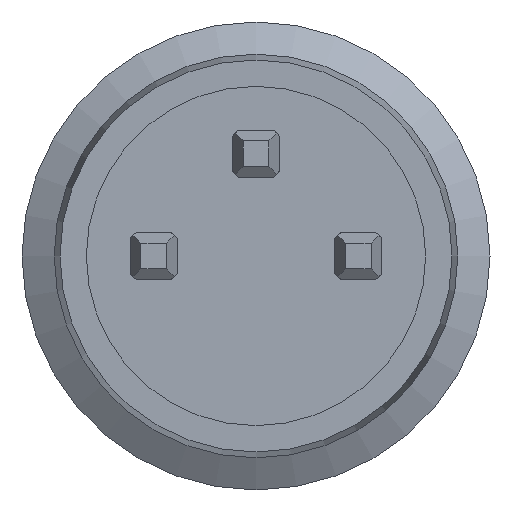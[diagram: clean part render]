
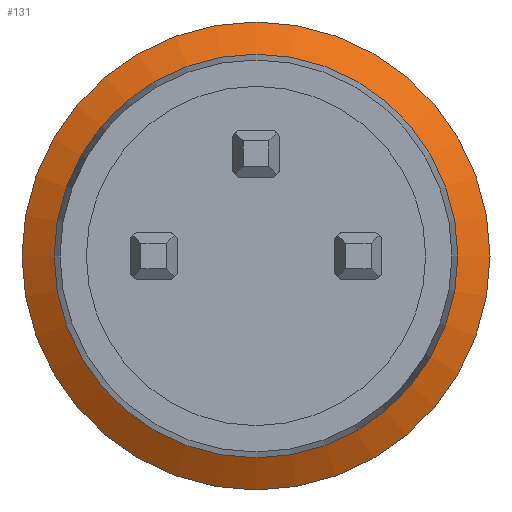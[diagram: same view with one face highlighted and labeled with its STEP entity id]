
A CAD part, left-side view. The second image highlights one B-rep face of the part: STEP entity #131.
In plain terms, the highlighted conical face has half-angle 60 degrees and reference radius 4 mm.
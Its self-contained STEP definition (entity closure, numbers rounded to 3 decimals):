
#131 = ADVANCED_FACE( '', ( #263, #264 ), #265, .T. );
#263 = FACE_BOUND( '', #405, .T. );
#264 = FACE_OUTER_BOUND( '', #406, .T. );
#265 = CONICAL_SURFACE( '', #407, 4., 1.047 );
#405 = EDGE_LOOP( '', ( #833 ) );
#406 = EDGE_LOOP( '', ( #834 ) );
#407 = AXIS2_PLACEMENT_3D( '', #835, #836, #837 );
#833 = ORIENTED_EDGE( '', *, *, #980, .F. );
#834 = ORIENTED_EDGE( '', *, *, #981, .T. );
#835 = CARTESIAN_POINT( '', ( -42.517, 0., 0. ) );
#836 = DIRECTION( '', ( 1., 0., 0. ) );
#837 = DIRECTION( '', ( 0., 0., -1. ) );
#980 = EDGE_CURVE( '', #1196, #1196, #1197, .T. );
#981 = EDGE_CURVE( '', #1198, #1198, #1199, .T. );
#1196 = VERTEX_POINT( '', #1686 );
#1197 = CIRCLE( '', #1687, 3.25 );
#1198 = VERTEX_POINT( '', #1688 );
#1199 = CIRCLE( '', #1689, 4. );
#1686 = CARTESIAN_POINT( '', ( -42.95, 0., 3.25 ) );
#1687 = AXIS2_PLACEMENT_3D( '', #1904, #1905, #1906 );
#1688 = CARTESIAN_POINT( '', ( -42.517, 0., 4. ) );
#1689 = AXIS2_PLACEMENT_3D( '', #1907, #1908, #1909 );
#1904 = CARTESIAN_POINT( '', ( -42.95, 0., 0. ) );
#1905 = DIRECTION( '', ( -1., 0., 0. ) );
#1906 = DIRECTION( '', ( 0., 0., 1. ) );
#1907 = CARTESIAN_POINT( '', ( -42.517, 0., 0. ) );
#1908 = DIRECTION( '', ( -1., 0., 0. ) );
#1909 = DIRECTION( '', ( 0., 0., 1. ) );
